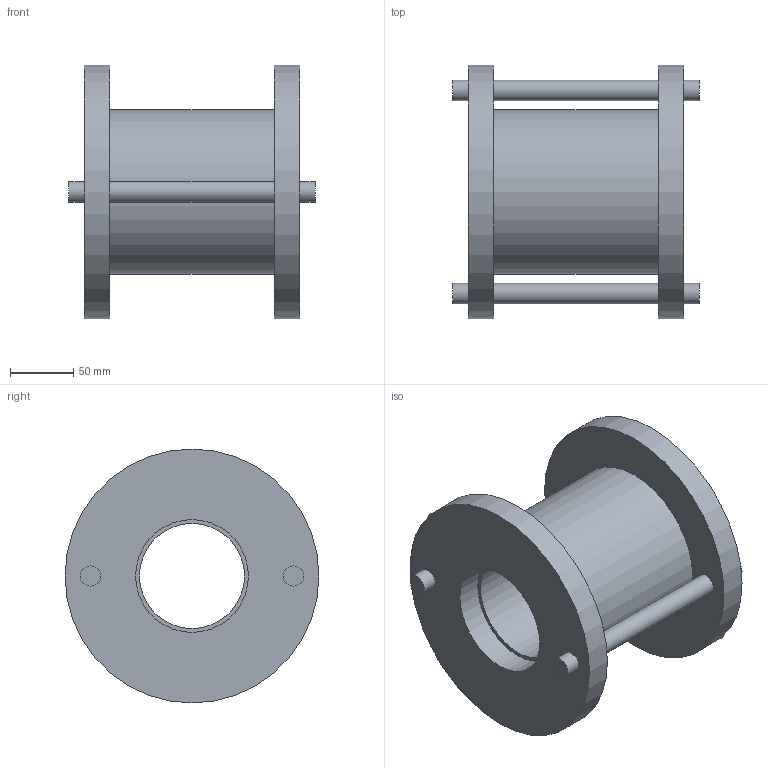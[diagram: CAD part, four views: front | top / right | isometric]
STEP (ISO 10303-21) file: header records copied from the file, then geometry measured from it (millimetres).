
FILE_DESCRIPTION(('Open CASCADE Model'),'2;1');
FILE_NAME('Open CASCADE Shape Model','2026-09-07T11:14:08',('Author'),( 'Open CASCADE'),'Open CASCADE STEP processor 7.9','Open CASCADE 7.9' ,'Unknown');
FILE_SCHEMA(('AUTOMOTIVE_DESIGN { 1 0 10303 214 1 1 1 1 }'));
Length unit declared in the file: millimetre
Products named in the file (1): Open CASCADE STEP translator 7.9 18
Bounding box: 194 x 200 x 200 mm (x, y, z)
Volume: 2095803.9 mm3; surface area: 226238.9 mm2
Topology: 1 solids, 1 shells, 22 faces, 36 edges, 24 vertices
Faces by surface type: cylinder 12, plane 10
Full cylindrical faces by diameter (mm): 16 x6, 82.8 x1, 88.9 x2, 130 x1, 200 x2
Entity records: 1038 total; most frequent: CARTESIAN_POINT 203, DIRECTION 170, ORIENTED_EDGE 72, PCURVE 72, DEFINITIONAL_REPRESENTATION 72, LINE 60, VECTOR 60, AXIS2_PLACEMENT_3D 47
